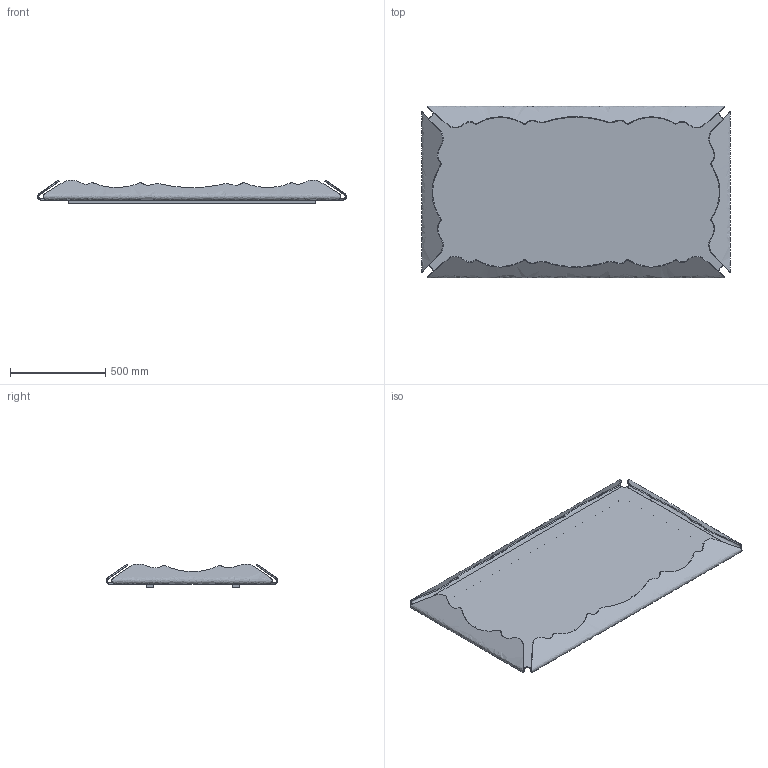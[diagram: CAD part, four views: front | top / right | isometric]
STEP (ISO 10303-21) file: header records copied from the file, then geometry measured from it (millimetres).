
FILE_DESCRIPTION(/* description */ (''),/* implementation_level */ '2;1');
FILE_NAME(/* name */ '382 - Gallery Decor 162x90',/* time_stamp */ '2010-11-02T14:40:44+01:00',/* author */ (''),/* organization */ (''),/* preprocessor_version */ 'ST-DEVELOPER v10',/* originating_system */ '',/* authorisation */ '');
FILE_SCHEMA (('CONFIG_CONTROL_DESIGN'));
Length unit declared in the file: centimetre
Products named in the file (1): 1
Bounding box: 1620 x 900 x 124.78 mm (x, y, z)
Volume: 14371047.8 mm3; surface area: 4919378.5 mm2
Topology: 7 solids, 7 shells, 88 faces, 222 edges, 148 vertices
Faces by surface type: bspline 74, plane 14
Entity records: 4736 total; most frequent: CARTESIAN_POINT 3278, ORIENTED_EDGE 444, EDGE_CURVE 222, B_SPLINE_CURVE_WITH_KNOTS 170, VERTEX_POINT 148, EDGE_LOOP 96, ADVANCED_FACE 88, FACE_OUTER_BOUND 88
